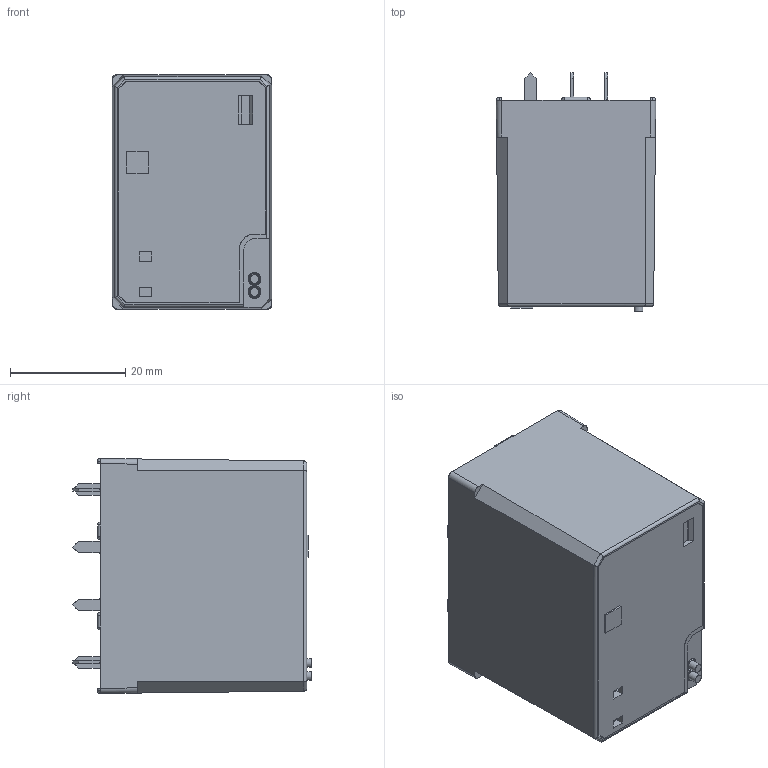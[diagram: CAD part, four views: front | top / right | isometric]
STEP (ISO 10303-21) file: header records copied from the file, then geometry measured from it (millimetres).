
FILE_DESCRIPTION(('STEP AP214'),'2;1');
FILE_NAME('5644xxxx0000_senza pulsante_NO.stp','2011-05-17T13:58:09',(''),(''),'2007.1.106','THINKDESIGN','');
FILE_SCHEMA(('AUTOMOTIVE_DESIGN'));
Length unit declared in the file: millimetre
Products named in the file (1): None
Bounding box: 27.7 x 41.4 x 40.79 mm (x, y, z)
Surface area: 11562.8 mm2 (no closed solid volume)
Topology: 0 solids, 0 shells, 295 faces, 1651 edges, 1622 vertices
Faces by surface type: plane 191, cylinder 56, bspline 48
Full cylindrical faces by diameter (mm): 1.5 x2, 5 x1
Entity records: 17805 total; most frequent: CARTESIAN_POINT 6387, DIRECTION 1879, COMPOSITE_CURVE_SEGMENT 1613, TRIMMED_CURVE 1299, VECTOR 1225, LINE 1225, AXIS2_PLACEMENT_3D 327, STYLED_ITEM 295
